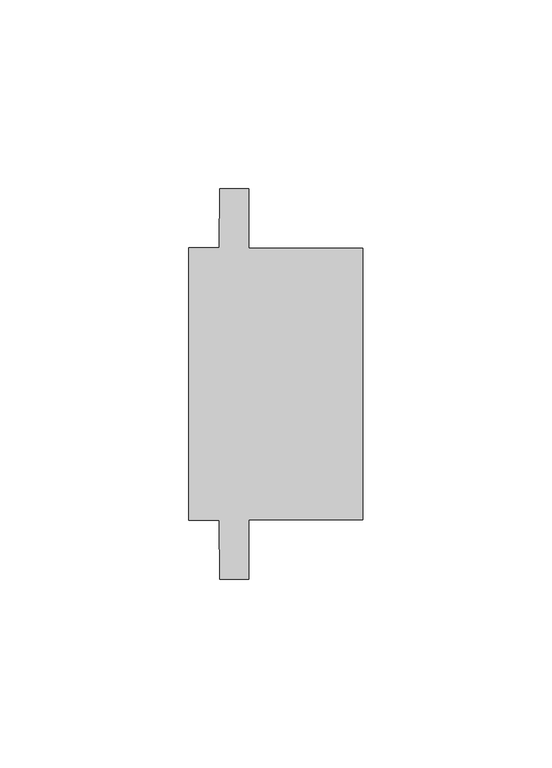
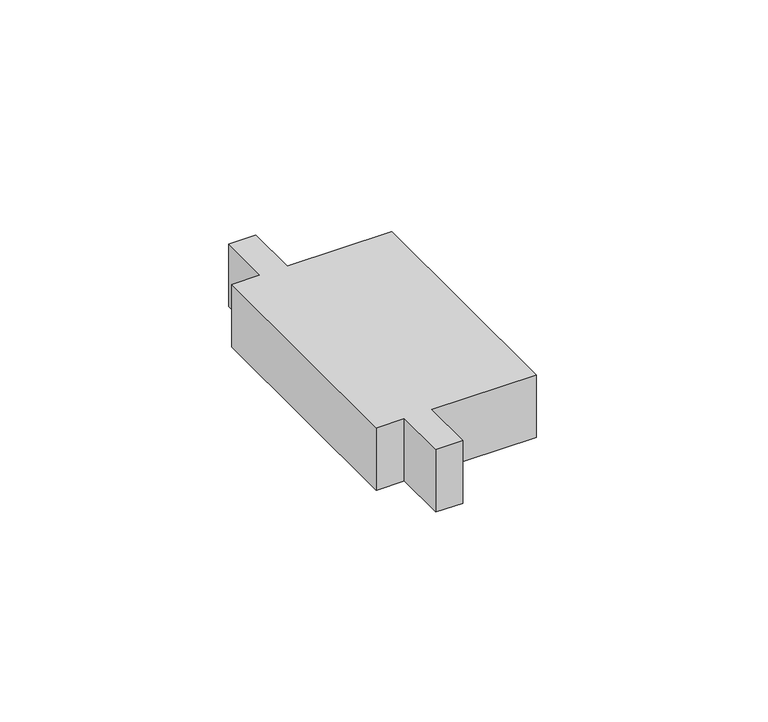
"""IFC4 building model written with IfcOpenShell, lengths in millimetres: proxy geometry, Reinforcement-block KP-LRB150 : Reinforcement-Block KP-LRB150."""

import ifcopenshell
import ifcopenshell.guid

model = None  # the IFC model being written
_history = None  # IfcOwnerHistory: only IFC2X3 demands one
_inside = {}  # id of a spatial element -> (the spatial element, [elements in it])
_under = {}  # id of a project, library or spatial element -> (it, [spatial elements below it])
_declared = {}  # id of a project -> (the project, [libraries it declares])
_typed = {}  # id of a type object -> (the type object, [elements of that type])
_made_of = {}  # id of a material, layer set ... -> (it, [elements and type objects made of it])


def new_model(schema):
    """Start an empty IFC model of exactly this schema.

    Asked for "IFC4X3", IfcOpenShell would pick the latest addendum, in which some entities
    have other attributes; the version numbers below select the first issue.
    IFC2X3 requires an IfcOwnerHistory on every rooted entity: one is made here for all.
    """
    global model, _history
    if schema == "IFC4X3":
        model = ifcopenshell.file(schema_version=(4, 3, 0, 0))
    else:
        model = ifcopenshell.file(schema=schema)
    _inside.clear()
    _under.clear()
    _declared.clear()
    _typed.clear()
    _made_of.clear()
    _history = None
    if model.schema == "IFC2X3":
        org = make("IfcOrganization", Name="unknown")
        user = make(
            "IfcPersonAndOrganization",
            ThePerson=make("IfcPerson", FamilyName="unknown"),
            TheOrganization=org,
        )
        app = make(
            "IfcApplication",
            ApplicationDeveloper=org,
            Version="unknown",
            ApplicationFullName="unknown",
            ApplicationIdentifier="unknown",
        )
        _history = make(
            "IfcOwnerHistory",
            OwningUser=user,
            OwningApplication=app,
            ChangeAction="ADDED",
            CreationDate=0,
        )
    return model


def make(cls, **values):
    """One entity of the class cls with the attributes given. An attribute that is None is left unset."""
    return model.create_entity(
        cls, **{name: value for name, value in values.items() if value is not None}
    )


def rooted(cls, **values):
    """An entity with a GlobalId (a new one), such as an element, a storey or a relation."""
    return make(cls, GlobalId=ifcopenshell.guid.new(), OwnerHistory=_history, **values)


def si_unit(unit_type, name, prefix=None):
    """IfcSIUnit, for example si_unit("LENGTHUNIT", "METRE", prefix="MILLI")."""
    return make("IfcSIUnit", UnitType=unit_type, Prefix=prefix, Name=name)


def assignment(units):
    """IfcUnitAssignment: the units of a project."""
    return None if units is None else make("IfcUnitAssignment", Units=units)


def point(xyz):
    """IfcCartesianPoint."""
    return None if xyz is None else make("IfcCartesianPoint", Coordinates=xyz)


def direction(xyz):
    """IfcDirection."""
    return None if xyz is None else make("IfcDirection", DirectionRatios=xyz)


def frame(location, z_axis=None, x_axis=None):
    """IfcAxis2Placement3D, a coordinate frame: its origin and axes. An axis left out is left unset."""
    return make(
        "IfcAxis2Placement3D",
        Location=point(location),
        Axis=direction(z_axis),
        RefDirection=direction(x_axis),
    )


def origin():
    """The frame at (0, 0, 0) with its axes left unset."""
    return frame((0.0, 0.0, 0.0))


def place(relative_to, where):
    """IfcLocalPlacement: puts the frame where relative to a parent placement (None: the world)."""
    return make(
        "IfcLocalPlacement", PlacementRelTo=relative_to, RelativePlacement=where
    )


def context(
    kind, dimensions, precision=None, world=None, true_north=None, identifier=None
):
    """IfcGeometricRepresentationContext, for example the 3D "Model" context."""
    return make(
        "IfcGeometricRepresentationContext",
        ContextIdentifier=identifier,
        ContextType=kind,
        CoordinateSpaceDimension=dimensions,
        Precision=precision,
        WorldCoordinateSystem=world,
        TrueNorth=true_north,
    )


def project(units=None, contexts=None):
    """IfcProject with its units and contexts."""
    return rooted(
        "IfcProject",
        Name="project",
        RepresentationContexts=contexts,
        UnitsInContext=assignment(units),
    )


def spatial(cls, under=None, at=None, **own):
    """A site, building, storey or space (cls), placed at a placement, below another one or the project."""
    s = rooted(cls, ObjectPlacement=at, **own)
    if under is not None:
        _under.setdefault(under.id(), (under, []))[1].append(s)
    return s


def polyline(points):
    """IfcPolyline through the points."""
    return make("IfcPolyline", Points=[point(p) for p in points])


def outline(outer, holes=None, kind="AREA"):
    """IfcArbitraryClosedProfileDef: a profile drawn as a closed curve; with holes, ...WithVoids."""
    if holes is None:
        return make("IfcArbitraryClosedProfileDef", ProfileType=kind, OuterCurve=outer)
    return make(
        "IfcArbitraryProfileDefWithVoids",
        ProfileType=kind,
        OuterCurve=outer,
        InnerCurves=holes,
    )


def extrude(swept, where, along, depth):
    """IfcExtrudedAreaSolid: the profile swept, set in the frame where, extruded along a direction by depth."""
    return make(
        "IfcExtrudedAreaSolid",
        SweptArea=swept,
        Position=where,
        ExtrudedDirection=direction(along),
        Depth=depth,
    )


def shape(context_of_items, identifier, shape_type, items):
    """IfcShapeRepresentation: the items that make up one representation, for example the "Body"."""
    return make(
        "IfcShapeRepresentation",
        ContextOfItems=context_of_items,
        RepresentationIdentifier=identifier,
        RepresentationType=shape_type,
        Items=items,
    )


def source(mapping_origin, context_of_items, identifier, shape_type, items):
    """IfcRepresentationMap: a shape defined once, which mapped items show again and again."""
    return make(
        "IfcRepresentationMap",
        MappingOrigin=mapping_origin,
        MappedRepresentation=shape(context_of_items, identifier, shape_type, items),
    )


def transform(
    local_origin,
    x_axis=None,
    y_axis=None,
    z_axis=None,
    scale=None,
    scale2=None,
    scale3=None,
    uniform=True,
):
    """IfcCartesianTransformationOperator3D, or its non-uniform kind. x_axis, y_axis, z_axis: its Axis1, 2, 3."""
    if uniform:
        return make(
            "IfcCartesianTransformationOperator3D",
            Axis1=direction(x_axis),
            Axis2=direction(y_axis),
            LocalOrigin=point(local_origin),
            Scale=scale,
            Axis3=direction(z_axis),
        )
    return make(
        "IfcCartesianTransformationOperator3DnonUniform",
        Axis1=direction(x_axis),
        Axis2=direction(y_axis),
        LocalOrigin=point(local_origin),
        Scale=scale,
        Axis3=direction(z_axis),
        Scale2=scale2,
        Scale3=scale3,
    )


def mapped(mapping_source, mapping_target):
    """IfcMappedItem: shows the shape of a source again, moved by a transform."""
    return make(
        "IfcMappedItem", MappingSource=mapping_source, MappingTarget=mapping_target
    )


def made_of(thing, what):
    """Note that an element or type object is made of a material, layer set ...; save() writes the relation."""
    if what is not None:
        _made_of.setdefault(what.id(), (what, []))[1].append(thing)
    return thing


def element(
    cls,
    number,
    at=None,
    inside=None,
    cuts=None,
    type_object=None,
    material=None,
    context=None,
    identifier="Body",
    shape_type=None,
    held_by="IfcProductDefinitionShape",
    body=None,
    shapes=None,
    **own,
):
    """One element of the class cls, such as IfcWall. Its Tag is "e" and its number.

    at: its placement. inside: the storey or other place that contains it. cuts: it is an
    opening in that element (IfcRelVoidsElement). A single representation is given by context,
    identifier, shape_type and body (its items); several are given by shapes. held_by: the class
    of the entity that holds the representations. save() writes the other relations.
    """
    e = rooted(cls, Tag="e%d" % number, ObjectPlacement=at, **own)
    if body is not None:
        shapes = [shape(context, identifier, shape_type, body)]
    if shapes is not None:
        e.Representation = make(held_by, Representations=shapes)
    if inside is not None:
        _inside.setdefault(inside.id(), (inside, []))[1].append(e)
    if cuts is not None:
        rooted(
            "IfcRelVoidsElement", RelatingBuildingElement=cuts, RelatedOpeningElement=e
        )
    if type_object is not None:
        _typed.setdefault(type_object.id(), (type_object, []))[1].append(e)
    return made_of(e, material)


def aggregate(whole, parts):
    """IfcRelAggregates: a whole, such as a stair, and the parts it consists of."""
    return rooted("IfcRelAggregates", RelatingObject=whole, RelatedObjects=parts)


def save(model, path):
    """Write the relations noted so far, then the file.

    IfcRelAggregates (storeys below a building ...), IfcRelContainedInSpatialStructure (elements
    in a storey), IfcRelDefinesByType, IfcRelAssociatesMaterial and IfcRelDeclares: one each for
    every whole, place, type object, material and project.
    """
    for whole, parts in _under.values():
        aggregate(whole, parts)
    for where, things in _inside.values():
        rooted(
            "IfcRelContainedInSpatialStructure",
            RelatedElements=things,
            RelatingStructure=where,
        )
    for kind, things in _typed.values():
        rooted("IfcRelDefinesByType", RelatedObjects=things, RelatingType=kind)
    for what, things in _made_of.values():
        rooted("IfcRelAssociatesMaterial", RelatedObjects=things, RelatingMaterial=what)
    for by, libraries in _declared.values():
        rooted("IfcRelDeclares", RelatingContext=by, RelatedDefinitions=libraries)
    model.write(path)


def generic_models_260bb002(model_context):
    return source(origin(), model_context, "Body", "SweptSolid", [
        extrude(outline(polyline([(-38.0, -36.0106549), (-46.0, -36.0106549), (-46.0, 36.0106549), (-38.0, 36.0106549), (-37.8673, 51.6503549), (-30.1327, 51.6503549), (-30.1327, 35.9893451), (0.0, 35.9893451), (0.0, -35.9893451), (-30.1327, -35.9893451), (-30.1327, -51.6503549), (-37.8673, -51.6503549), (-38.0, -36.0106549)])), frame((0.0, 0.0, -19.05), z_axis=(0.0, 0.0, 1.0), x_axis=(1.0, 0.0, 0.0)), (0.0, 0.0, 1.0), 19.05),
    ])


if __name__ == "__main__":
    model = new_model("IFC4")
    model_context = context("Model", 3, world=origin())
    ifc_project = project(units=[si_unit("LENGTHUNIT", "METRE", prefix="MILLI")], contexts=[model_context])
    site = spatial("IfcSite", under=ifc_project)
    building = spatial("IfcBuilding", under=site)
    placement = place(None, origin())
    generic_models_shape = generic_models_260bb002(model_context)
    element("IfcBuildingElementProxy", 1, Name="Reinforcement-block KP-LRB150 : Reinforcement-Block KP-LRB150", ObjectType="Reinforcement-block KP-LRB150 : Reinforcement-Block KP-LRB150", at=placement, inside=building, context=model_context, shape_type="MappedRepresentation", body=[
        mapped(generic_models_shape, transform((0.0, 0.0, 0.0), x_axis=(1.0, 0.0, 0.0), y_axis=(0.0, 1.0, 0.0), z_axis=(0.0, 0.0, 1.0))),
    ])
    save(model, "model.ifc")
